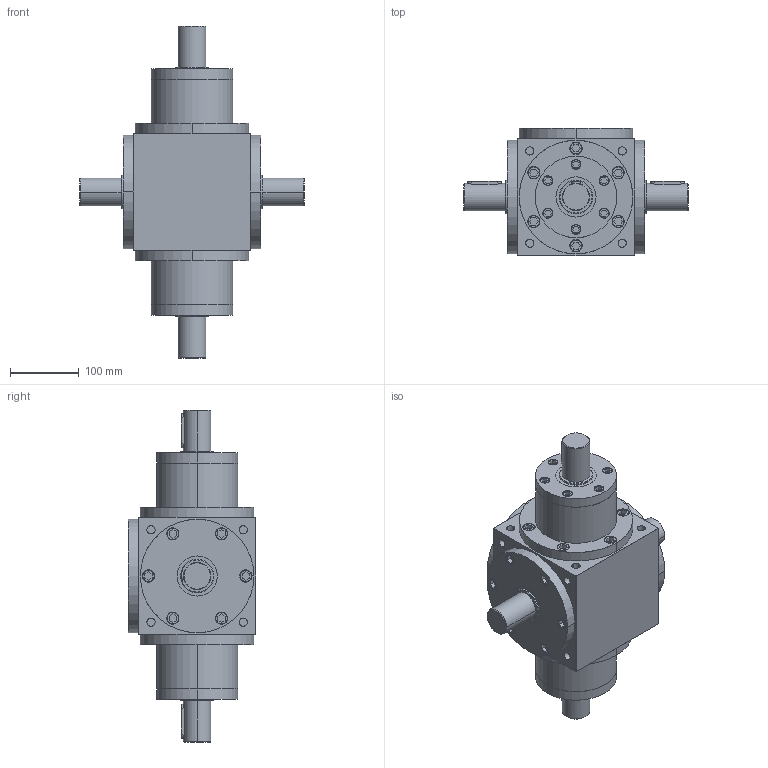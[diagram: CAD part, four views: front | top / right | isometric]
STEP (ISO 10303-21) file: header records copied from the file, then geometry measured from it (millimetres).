
FILE_DESCRIPTION (( 'STEP AP203' ), '1' );
FILE_NAME ('VSAF17-1£º1-I.step', '2018-07-14T08:32:04', ( 'IT Division' ), ( 'IT' ), 'SwSTEP 2.0', 'SolidWorks 2016', '' );
FILE_SCHEMA (( 'CONFIG_CONTROL_DESIGN' ));
Length unit declared in the file: millimetre
Products named in the file (1): VSAF17-1ㄩ1-I
Bounding box: 326 x 185 x 482 mm (x, y, z)
Volume: 8507109.3 mm3; surface area: 374821.1 mm2
Topology: 3 solids, 3 shells, 907 faces, 2022 edges, 1260 vertices
Faces by surface type: plane 443, cylinder 346, torus 94, cone 16, sphere 8
Entity records: 25403 total; most frequent: CARTESIAN_POINT 4896, DIRECTION 4476, ORIENTED_EDGE 4028, EDGE_CURVE 2014, AXIS2_PLACEMENT_3D 1692, VERTEX_POINT 1260, VECTOR 1092, LINE 1092
